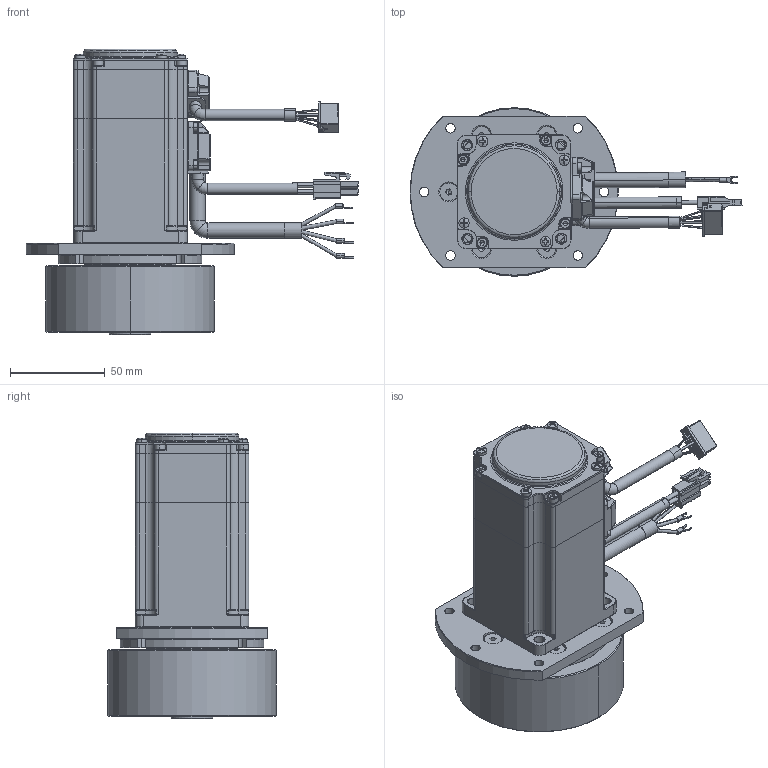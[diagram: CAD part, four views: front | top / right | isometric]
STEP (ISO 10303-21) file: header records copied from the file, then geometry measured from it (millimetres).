
FILE_DESCRIPTION((''),'2;1');
FILE_NAME('MSD90--040-30GSL-B_ASM','2026-05-21T16:35:11',('MS28159'),(''),'CREO PARAMETRIC BY PTC INC, 2018100','CREO PARAMETRIC BY PTC INC, 2018100','');
FILE_SCHEMA(('CONFIG_CONTROL_DESIGN'));
Length unit declared in the file: millimetre
Products named in the file (61): M5-10-10_10001_1_1_2; 060_10_JA214-021000001_1_1_2; M5-10-7-_10001_1_1_2; M5-10-11_10001_1_1_2; M5-10-12_10001_1_1_2; M5-10-8-_10001_1_1_2; 4394000102411_60SV0001_1_1_2; M5-10-9-_10001_1_1_2; NONE_1_2_1_1_2_3; 0226--1-SOLID1_1000_1_1_2; 60SV04302-0400K-045-GRX_X2_FF_6_ASM; ASM0009_ASM_1_1_ASM; M5_1000_1_1_2; 100_1_1_2; 3698201102700_60SV__X2_530580_6_ASM; 3698201102700_60SV0001_ASM_1_1_ASM; ASM0008_ASM_1_1_ASM; _1_C-172165-1-H-3D0001_1; HEXAGONSOCKETHEADC0009_1; HEXAGONSOCKETHEADC0010_1; HEXAGONSOCKETHEADC0011_1; HEXAGONSOCKETHEADC0012_1; _1-SOLID10001_1_1_2; _1_-1-SOLID10001_1; CROSSRECESSEDSMALL0009_1; 001-1-SOLID10001_1; _1_5016461600-1-SO0001_1; CROSSRECESSEDSMALL0010_1; HEXAGONSOCKETHEADC0013_1; _-1-SOLID10001_1; _1_429443800025-1-0001_1; _-1-SOLID10002_1; _1_AGV-2-SOLID10001_1; CROSSRECESSEDCOUNT0004_1; CROSSRECESSEDCOUNT0005_1; CROSSRECESSEDCOUNT0006_1; _1_--1-SOLID10001_1; 3698154002195-1-SOLID1_1; HEXAGONSOCKETHEADC0014_1; _1_-1-SOLID10002_1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
Assembly tree (60 placements, depth 5):
  MSD90--040-30GSL-B_ASM
    ASM0008_ASM_1_1_ASM
      ASM0009_ASM_1_1_ASM
        60SV04302-0400K-045-GRX_X2_FF_6_ASM
          M5-10-10_10001_1_1_2
          060_10_JA214-021000001_1_1_2
          M5-10-7-_10001_1_1_2
          M5-10-11_10001_1_1_2
          M5-10-12_10001_1_1_2
          M5-10-8-_10001_1_1_2
          4394000102411_60SV0001_1_1_2
          M5-10-9-_10001_1_1_2
          NONE_1_2_1_1_2_3
          0226--1-SOLID1_1000_1_1_2
      3698201102700_60SV0001_ASM_1_1_ASM
        3698201102700_60SV__X2_530580_6_ASM
          M5_1000_1_1_2
          100_1_1_2
    SM0602GSL-KCY-BNN-10_ASM
      4611170005890_ASM_1_ASM
        _1_C-172165-1-H-3D0001_1
        HEXAGONSOCKETHEADC0009_1
        HEXAGONSOCKETHEADC0010_1
        HEXAGONSOCKETHEADC0011_1
        HEXAGONSOCKETHEADC0012_1
        _1-SOLID10001_1_1_2
        _1_-1-SOLID10001_1
        CROSSRECESSEDSMALL0009_1
        001-1-SOLID10001_1
        _1_5016461600-1-SO0001_1
        CROSSRECESSEDSMALL0010_1
        HEXAGONSOCKETHEADC0013_1
        _-1-SOLID10001_1
        _1_429443800025-1-0001_1
        _-1-SOLID10002_1
        _1_AGV-2-SOLID10001_1
        CROSSRECESSEDCOUNT0004_1
        CROSSRECESSEDCOUNT0005_1
        CROSSRECESSEDCOUNT0006_1
        _1_--1-SOLID10001_1
        3698154002195-1-SOLID1_1
        HEXAGONSOCKETHEADC0014_1
        _1_-1-SOLID10002_1
        HEXAGONSOCKETHEADC0015_1
        CROSSRECESSEDSMALL0011_1
        CROSSRECESSEDSMALL0012_1
        _1_AGV-1-SOLID10001_1
        _1_AGV-3-SOLID10001_1
        HEXAGONSOCKETHEADC0016_1
        CROSSRECESSEDSMALL0013_1
        _1_AGV-4-SOLID10001_1
        _1_--1-SOLID10002_1
        CROSSRECESSEDSMALL0014_1
        CROSSRECESSEDSMALL0015_1
        CROSSRECESSEDSMALL0016_1
        _110001_1
        _140001_1
        _120001_1
        _220001_1
        _150001_1
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Bounding box: 175.33 x 89 x 151 mm (x, y, z)
Volume: 350554.2 mm3; surface area: 183023.7 mm2
Topology: 53 solids, 57 shells, 2915 faces, 7635 edges, 4822 vertices
Faces by surface type: plane 1290, cylinder 992, torus 276, cone 231, sphere 78, bspline 30, extrusion 18
Entity records: 95900 total; most frequent: CARTESIAN_POINT 21325, DIRECTION 16171, ORIENTED_EDGE 15022, EDGE_CURVE 7511, AXIS2_PLACEMENT_3D 6102, VERTEX_POINT 4822, VECTOR 3967, LINE 3949
